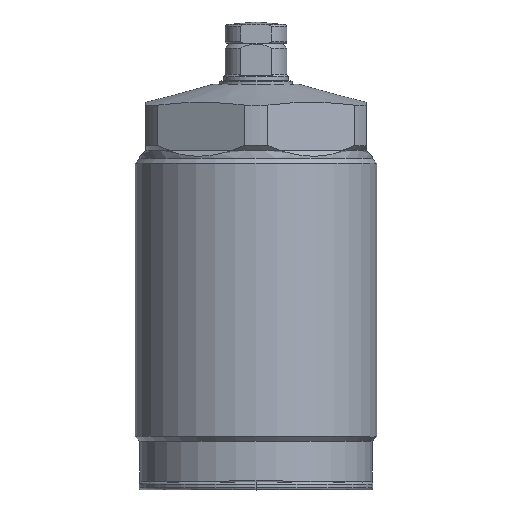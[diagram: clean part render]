
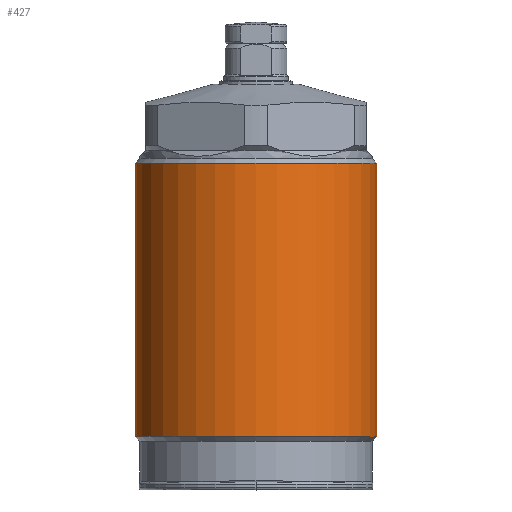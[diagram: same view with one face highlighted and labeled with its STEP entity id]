
A CAD part, top view. The second image highlights one B-rep face of the part: STEP entity #427.
In plain terms, the highlighted cylindrical face has radius 22.5 mm (diameter 45 mm), a full revolution.
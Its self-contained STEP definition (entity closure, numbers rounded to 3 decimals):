
#261=FACE_BOUND('',#742,.T.);
#262=FACE_BOUND('',#743,.T.);
#427=ADVANCED_FACE('',(#261,#262),#507,.T.);
#507=CYLINDRICAL_SURFACE('',#2473,22.5);
#742=EDGE_LOOP('',(#1354));
#743=EDGE_LOOP('',(#1355,#1356,#1357,#1358,#1359,#1360));
#854=LINE('',#3976,#932);
#855=LINE('',#3981,#933);
#932=VECTOR('',#3097,1.);
#933=VECTOR('',#3100,1.);
#1354=ORIENTED_EDGE('',*,*,#1963,.T.);
#1355=ORIENTED_EDGE('',*,*,#1964,.F.);
#1356=ORIENTED_EDGE('',*,*,#1964,.T.);
#1357=ORIENTED_EDGE('',*,*,#1965,.T.);
#1358=ORIENTED_EDGE('',*,*,#1966,.F.);
#1359=ORIENTED_EDGE('',*,*,#1966,.T.);
#1360=ORIENTED_EDGE('',*,*,#1967,.T.);
#1702=VERTEX_POINT('',#3975);
#1703=VERTEX_POINT('',#3977);
#1704=VERTEX_POINT('',#3978);
#1705=VERTEX_POINT('',#3980);
#1706=VERTEX_POINT('',#3982);
#1963=EDGE_CURVE('',#1702,#1702,#2189,.T.);
#1964=EDGE_CURVE('',#1703,#1704,#854,.T.);
#1965=EDGE_CURVE('',#1704,#1705,#2190,.T.);
#1966=EDGE_CURVE('',#1706,#1705,#855,.T.);
#1967=EDGE_CURVE('',#1705,#1704,#2191,.T.);
#2189=CIRCLE('',#2470,22.5);
#2190=CIRCLE('',#2471,22.5);
#2191=CIRCLE('',#2472,22.5);
#2470=AXIS2_PLACEMENT_3D('',#3974,#3095,#3096);
#2471=AXIS2_PLACEMENT_3D('',#3979,#3098,#3099);
#2472=AXIS2_PLACEMENT_3D('',#3983,#3101,#3102);
#2473=AXIS2_PLACEMENT_3D('',#3984,#3103,#3104);
#3095=DIRECTION('',(0.,-1.,0.));
#3096=DIRECTION('',(-1.,0.,0.));
#3097=DIRECTION('',(0.,-1.,0.));
#3098=DIRECTION('',(0.,1.,0.));
#3099=DIRECTION('',(-1.,0.,0.));
#3100=DIRECTION('',(0.,-1.,0.));
#3101=DIRECTION('',(0.,1.,0.));
#3102=DIRECTION('',(-1.,0.,0.));
#3103=DIRECTION('',(0.,1.,0.));
#3104=DIRECTION('',(-1.,0.,0.));
#3974=CARTESIAN_POINT('',(0.,59.4,0.));
#3975=CARTESIAN_POINT('',(-22.5,59.4,0.));
#3976=CARTESIAN_POINT('',(-22.5,66.3,0.));
#3977=CARTESIAN_POINT('',(-22.5,54.1,0.));
#3978=CARTESIAN_POINT('',(-22.5,8.6,0.));
#3979=CARTESIAN_POINT('',(0.,8.6,0.));
#3980=CARTESIAN_POINT('',(22.5,8.6,0.));
#3981=CARTESIAN_POINT('',(22.5,66.3,0.));
#3982=CARTESIAN_POINT('',(22.5,54.1,0.));
#3983=CARTESIAN_POINT('',(0.,8.6,0.));
#3984=CARTESIAN_POINT('',(0.,66.3,0.));
